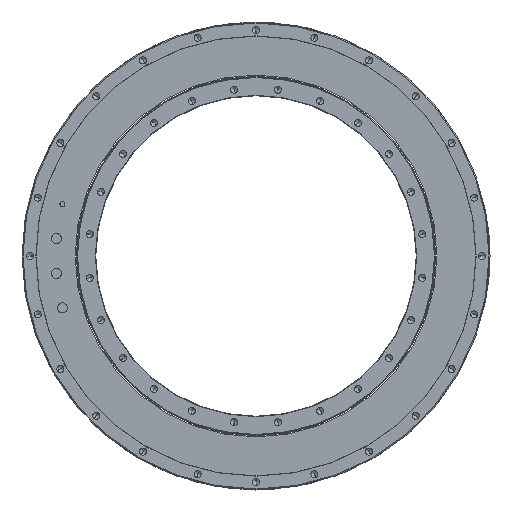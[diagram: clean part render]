
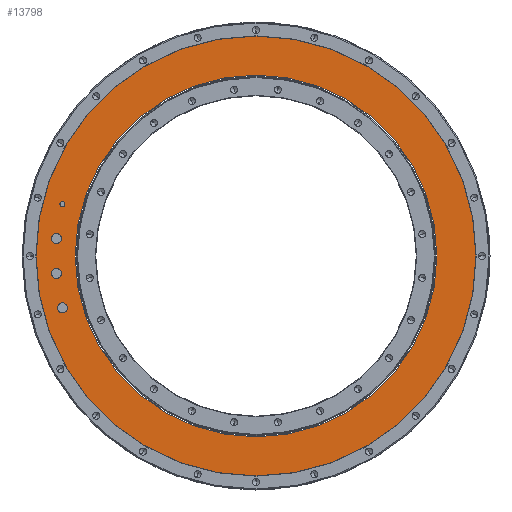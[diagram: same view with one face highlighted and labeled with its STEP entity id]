
A CAD part, left-side view. The second image highlights one B-rep face of the part: STEP entity #13798.
In plain terms, the highlighted planar face has unit normal (-1, 0, 0).
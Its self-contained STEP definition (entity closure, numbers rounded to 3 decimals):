
#13377=CARTESIAN_POINT('',(-155.,0.,0.));
#13378=DIRECTION('',(-1.,0.,0.));
#13379=DIRECTION('',(0.,1.,0.));
#13380=AXIS2_PLACEMENT_3D('',#13377,#13378,#13379);
#13382=CARTESIAN_POINT('',(-155.,0.,0.));
#13383=DIRECTION('',(1.,0.,0.));
#13384=DIRECTION('',(0.,1.,0.));
#13385=AXIS2_PLACEMENT_3D('',#13382,#13383,#13384);
#13387=CARTESIAN_POINT('',(-155.,0.,0.));
#13388=DIRECTION('',(-1.,0.,0.));
#13389=DIRECTION('',(0.,1.,0.));
#13390=AXIS2_PLACEMENT_3D('',#13387,#13388,#13389);
#13392=CARTESIAN_POINT('',(-155.,0.,0.));
#13393=DIRECTION('',(1.,0.,0.));
#13394=DIRECTION('',(0.,1.,0.));
#13395=AXIS2_PLACEMENT_3D('',#13392,#13393,#13394);
#13397=CARTESIAN_POINT('',(-155.,192.75,-51.647));
#13398=DIRECTION('',(-1.,0.,0.));
#13399=DIRECTION('',(0.,0.,1.));
#13400=AXIS2_PLACEMENT_3D('',#13397,#13398,#13399);
#13402=CARTESIAN_POINT('',(-155.,192.75,-51.647));
#13403=DIRECTION('',(-1.,0.,0.));
#13404=DIRECTION('',(0.,0.,-1.));
#13405=AXIS2_PLACEMENT_3D('',#13402,#13403,#13404);
#13407=CARTESIAN_POINT('',(-155.,192.75,51.647));
#13408=DIRECTION('',(-1.,0.,0.));
#13409=DIRECTION('',(0.,0.,1.));
#13410=AXIS2_PLACEMENT_3D('',#13407,#13408,#13409);
#13412=CARTESIAN_POINT('',(-155.,192.75,51.647));
#13413=DIRECTION('',(-1.,0.,0.));
#13414=DIRECTION('',(0.,0.,-1.));
#13415=AXIS2_PLACEMENT_3D('',#13412,#13413,#13414);
#13417=CARTESIAN_POINT('',(-155.,198.791,17.392));
#13418=DIRECTION('',(-1.,0.,0.));
#13419=DIRECTION('',(0.,0.,1.));
#13420=AXIS2_PLACEMENT_3D('',#13417,#13418,#13419);
#13422=CARTESIAN_POINT('',(-155.,198.791,17.392));
#13423=DIRECTION('',(-1.,0.,0.));
#13424=DIRECTION('',(0.,0.,-1.));
#13425=AXIS2_PLACEMENT_3D('',#13422,#13423,#13424);
#13427=CARTESIAN_POINT('',(-155.,198.791,-17.392));
#13428=DIRECTION('',(-1.,0.,0.));
#13429=DIRECTION('',(0.,0.,1.));
#13430=AXIS2_PLACEMENT_3D('',#13427,#13428,#13429);
#13432=CARTESIAN_POINT('',(-155.,198.791,-17.392));
#13433=DIRECTION('',(-1.,0.,0.));
#13434=DIRECTION('',(0.,0.,-1.));
#13435=AXIS2_PLACEMENT_3D('',#13432,#13433,#13434);
#13586=CARTESIAN_POINT('',(-155.,219.,0.));
#13588=VERTEX_POINT('',#13586);
#13589=CARTESIAN_POINT('',(-155.,180.1,0.));
#13591=VERTEX_POINT('',#13589);
#13606=CARTESIAN_POINT('',(-155.,-219.,0.));
#13608=VERTEX_POINT('',#13606);
#13609=CARTESIAN_POINT('',(-155.,-180.1,0.));
#13611=VERTEX_POINT('',#13609);
#13641=CARTESIAN_POINT('',(-155.,192.75,-46.647));
#13642=CARTESIAN_POINT('',(-155.,192.75,-56.647));
#13643=VERTEX_POINT('',#13641);
#13644=VERTEX_POINT('',#13642);
#13645=CARTESIAN_POINT('',(-155.,192.75,54.147));
#13646=CARTESIAN_POINT('',(-155.,192.75,49.147));
#13647=VERTEX_POINT('',#13645);
#13648=VERTEX_POINT('',#13646);
#13649=CARTESIAN_POINT('',(-155.,198.791,22.392));
#13650=CARTESIAN_POINT('',(-155.,198.791,12.392));
#13651=VERTEX_POINT('',#13649);
#13652=VERTEX_POINT('',#13650);
#13653=CARTESIAN_POINT('',(-155.,198.791,-12.392));
#13654=CARTESIAN_POINT('',(-155.,198.791,-22.392));
#13655=VERTEX_POINT('',#13653);
#13656=VERTEX_POINT('',#13654);
#13759=CARTESIAN_POINT('',(-155.,0.,0.));
#13760=DIRECTION('',(1.,0.,0.));
#13761=DIRECTION('',(0.,-1.,0.));
#13762=AXIS2_PLACEMENT_3D('',#13759,#13760,#13761);
#13763=PLANE('',#13762);
#13765=ORIENTED_EDGE('',*,*,#13764,.F.);
#13767=ORIENTED_EDGE('',*,*,#13766,.T.);
#13768=EDGE_LOOP('',(#13765,#13767));
#13769=FACE_OUTER_BOUND('',#13768,.F.);
#13770=ORIENTED_EDGE('',*,*,#13752,.F.);
#13771=ORIENTED_EDGE('',*,*,#13741,.T.);
#13772=EDGE_LOOP('',(#13770,#13771));
#13773=FACE_BOUND('',#13772,.F.);
#13775=ORIENTED_EDGE('',*,*,#13774,.T.);
#13777=ORIENTED_EDGE('',*,*,#13776,.T.);
#13778=EDGE_LOOP('',(#13775,#13777));
#13779=FACE_BOUND('',#13778,.F.);
#13781=ORIENTED_EDGE('',*,*,#13780,.T.);
#13783=ORIENTED_EDGE('',*,*,#13782,.T.);
#13784=EDGE_LOOP('',(#13781,#13783));
#13785=FACE_BOUND('',#13784,.F.);
#13787=ORIENTED_EDGE('',*,*,#13786,.T.);
#13789=ORIENTED_EDGE('',*,*,#13788,.T.);
#13790=EDGE_LOOP('',(#13787,#13789));
#13791=FACE_BOUND('',#13790,.F.);
#13793=ORIENTED_EDGE('',*,*,#13792,.T.);
#13795=ORIENTED_EDGE('',*,*,#13794,.T.);
#13796=EDGE_LOOP('',(#13793,#13795));
#13797=FACE_BOUND('',#13796,.F.);
#13798=ADVANCED_FACE('',(#13769,#13773,#13779,#13785,#13791,#13797),#13763,.F.);
#13381=CIRCLE('',#13380,180.1);
#13386=CIRCLE('',#13385,180.1);
#13391=CIRCLE('',#13390,219.);
#13396=CIRCLE('',#13395,219.);
#13401=CIRCLE('',#13400,5.);
#13406=CIRCLE('',#13405,5.);
#13411=CIRCLE('',#13410,2.5);
#13416=CIRCLE('',#13415,2.5);
#13421=CIRCLE('',#13420,5.);
#13426=CIRCLE('',#13425,5.);
#13431=CIRCLE('',#13430,5.);
#13436=CIRCLE('',#13435,5.);
#13741=EDGE_CURVE('',#13591,#13611,#13381,.T.);
#13752=EDGE_CURVE('',#13591,#13611,#13386,.T.);
#13764=EDGE_CURVE('',#13588,#13608,#13391,.T.);
#13766=EDGE_CURVE('',#13588,#13608,#13396,.T.);
#13774=EDGE_CURVE('',#13643,#13644,#13401,.T.);
#13776=EDGE_CURVE('',#13644,#13643,#13406,.T.);
#13780=EDGE_CURVE('',#13647,#13648,#13411,.T.);
#13782=EDGE_CURVE('',#13648,#13647,#13416,.T.);
#13786=EDGE_CURVE('',#13651,#13652,#13421,.T.);
#13788=EDGE_CURVE('',#13652,#13651,#13426,.T.);
#13792=EDGE_CURVE('',#13655,#13656,#13431,.T.);
#13794=EDGE_CURVE('',#13656,#13655,#13436,.T.);
